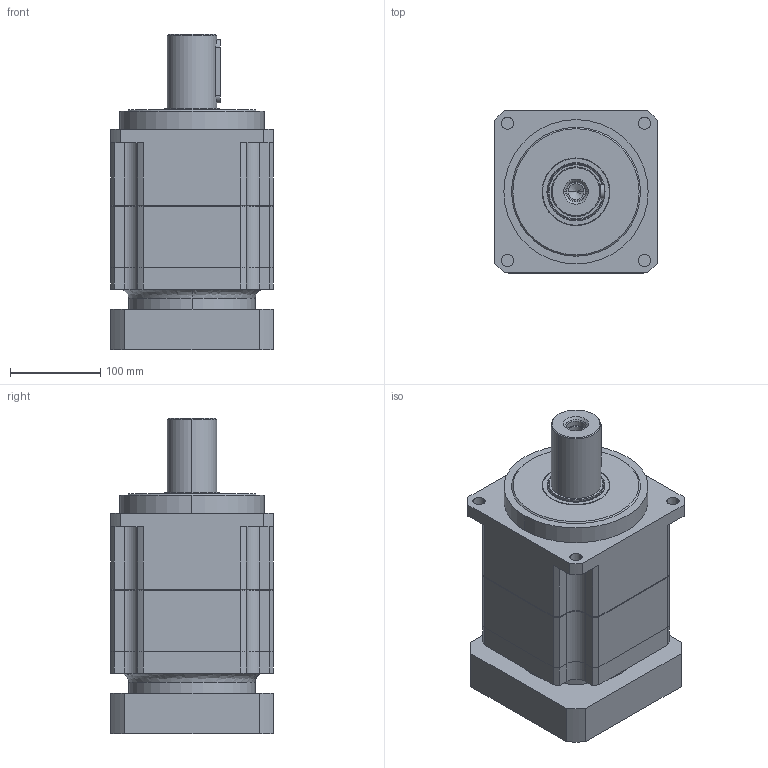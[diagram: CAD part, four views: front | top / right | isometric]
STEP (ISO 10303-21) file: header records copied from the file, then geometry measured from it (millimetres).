
FILE_DESCRIPTION (( 'STEP AP203' ), '1' );
FILE_NAME ('PLG180-L2.STEP', '2020-08-12T03:21:44', ( 'Windows User' ), ( 'P R C' ), 'SwSTEP 2.0', 'SolidWorks 2017', '' );
FILE_SCHEMA (( 'CONFIG_CONTROL_DESIGN' ));
Length unit declared in the file: millimetre
Products named in the file (8): PLG180珨撰蟀諉啣 180選 114.3x10 200xM12 ; 内六角圆柱头螺钉M10×35; 邧埴瑩 16x10x70; PLG180-L2; PLG180薊粣ん; PLG180二级齿圈; TC60-75-9_TC-34.9-55-7; PLG180齿圈转架
Assembly tree (7 placements, depth 2):
  PLG180-L2
    PLG180齿圈转架
    PLG180二级齿圈
    PLG180薊粣ん
    PLG180珨撰蟀諉啣 180選 114.3x10 200xM12 
    邧埴瑩 16x10x70
    TC60-75-9_TC-34.9-55-7
    内六角圆柱头螺钉M10×35
Bounding box: 180 x 180 x 349.5 mm (x, y, z)
Volume: 7062675.4 mm3; surface area: 517025.7 mm2
Topology: 7 solids, 7 shells, 441 faces, 1126 edges, 710 vertices
Faces by surface type: cylinder 209, plane 148, cone 62, bspline 22
Entity records: 15997 total; most frequent: CARTESIAN_POINT 4232, DIRECTION 2429, ORIENTED_EDGE 2192, EDGE_CURVE 1096, AXIS2_PLACEMENT_3D 947, VERTEX_POINT 710, VECTOR 535, LINE 535
